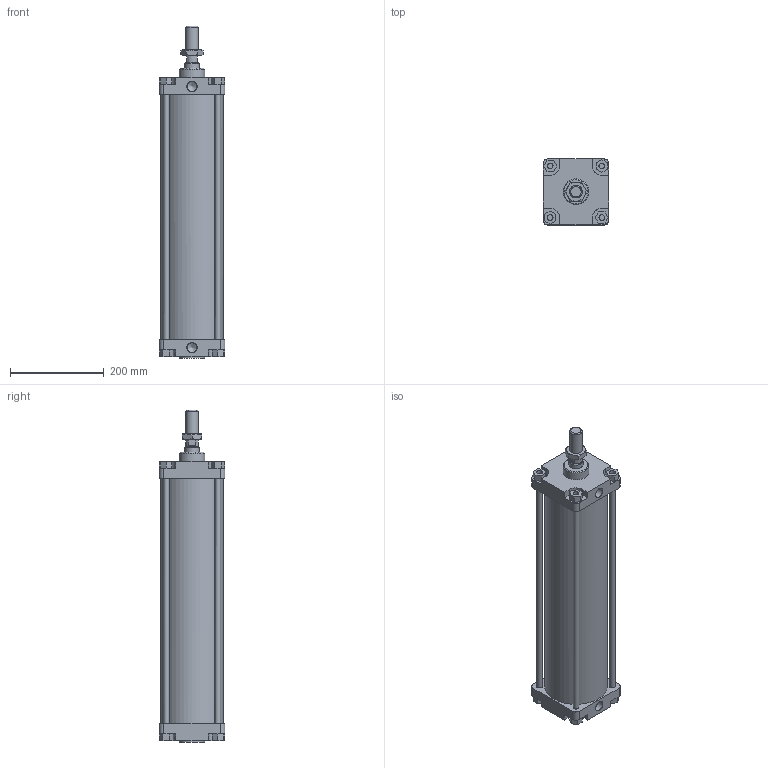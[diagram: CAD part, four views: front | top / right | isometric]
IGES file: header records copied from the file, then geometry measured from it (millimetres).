
Global section: file name: 1303_125_0450_01A; native system: Autodesk Inventor 2014; preprocessor: unknown; author: A. Manieri; date: 20161124.141604; units: millimetre
Bounding box: 140 x 140 x 708 mm (x, y, z)
Volume: 3705736 mm3; surface area: 765769.3 mm2
Topology: 9 solids, 9 shells, 175 faces, 440 edges, 295 vertices
Faces by surface type: bspline 175
